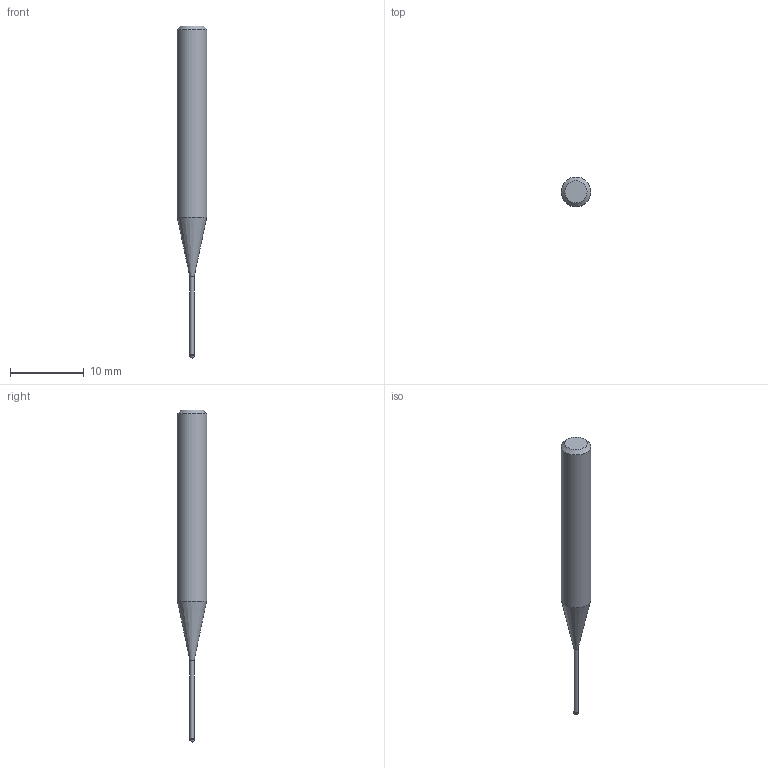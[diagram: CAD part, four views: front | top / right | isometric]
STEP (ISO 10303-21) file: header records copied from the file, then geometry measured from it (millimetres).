
FILE_DESCRIPTION((''),'2;1');
FILE_NAME('C:\Users\nsx150\AppData\Local\Temp\Mastercam 2021\3SYKECWX22\TEMP.step','2021-04-22T10:01:18',(''),(''),'STEP Write','Mastercam 2021 ... CNC Software, Inc.','');
FILE_SCHEMA(('AUTOMOTIVE_DESIGN'));
Length unit declared in the file: millimetre
Products named in the file (1): None
Bounding box: 4 x 4 x 45 mm (x, y, z)
Volume: 366.1 mm3; surface area: 413.3 mm2
Topology: 2 solids, 2 shells, 9 faces, 14 edges, 8 vertices
Faces by surface type: plane 3, cylinder 3, cone 2, sphere 1
Full cylindrical faces by diameter (mm): 0.56 x1, 0.6 x1, 4 x1
Entity records: 211 total; most frequent: DIRECTION 36, CARTESIAN_POINT 25, AXIS2_PLACEMENT_3D 18, ORIENTED_EDGE 14, EDGE_LOOP 14, STYLED_ITEM 12, ADVANCED_FACE 9, FACE_BOUND 8
